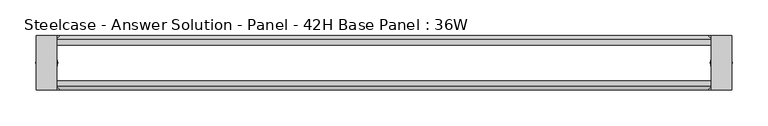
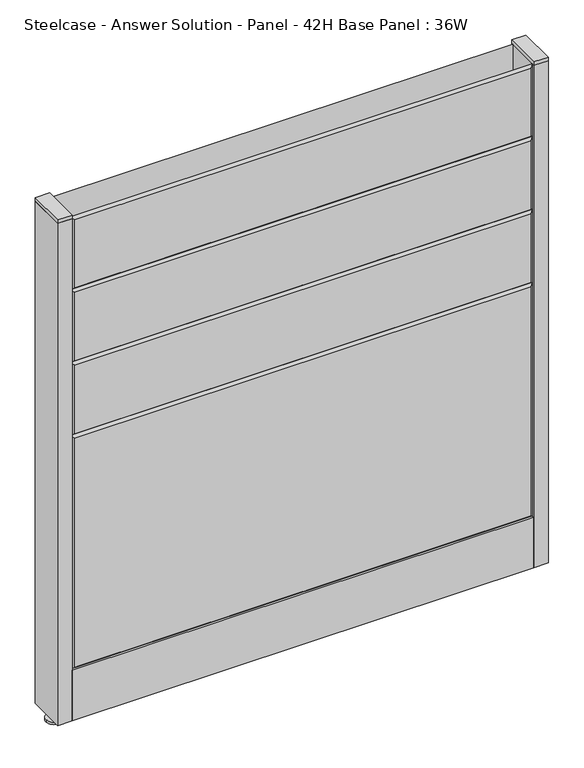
"""IFC4 building model written with IfcOpenShell, lengths in millimetres: furniture geometry, Steelcase - Answer Solution - Panel - 42H Base Panel : 36W."""

from ifc_helpers import new_model, si_unit, point, frame, frame_2d, origin, place, context, project, spatial, polyline, circle_curve, trimmed, segment, composite_curve, outline, extrude, faceted_brep, source, transform, mapped, element, save


def steelcase_answer_solution_panel_42h_base_panel_36w_b08f08ec(model_context):
    return source(origin(), model_context, "Body", "SolidModel", [
        extrude(outline(composite_curve([segment(trimmed(circle_curve(frame_2d((471.424, 0.0039657)), 5.08), [point((476.504, 0.0039657))], [point((466.344, 0.0039657))], False, "CARTESIAN"), True, "CONTINUOUS"), segment(trimmed(circle_curve(frame_2d((471.424, 0.0039657)), 5.08), [point((466.344, 0.0039657))], [point((476.504, 0.0039657))], False, "CARTESIAN"), True, "CONTINUOUS")], self_intersect=False)), frame((0.0, 0.0, 5.0799671), z_axis=(0.0, 0.0, 1.0), x_axis=(1.0, 0.0, 0.0)), (0.0, 0.0, 1.0), 10.414),
        extrude(outline(composite_curve([segment(trimmed(circle_curve(frame_2d((471.424, 0.0039657)), 15.24), [point((486.664, 0.0039657))], [point((456.184, 0.0039657))], False, "CARTESIAN"), True, "CONTINUOUS"), segment(trimmed(circle_curve(frame_2d((471.424, 0.0039657)), 15.24), [point((456.184, 0.0039657))], [point((486.664, 0.0039657))], False, "CARTESIAN"), True, "CONTINUOUS")], self_intersect=False)), frame((0.0, 0.0, -3.29e-05), z_axis=(0.0, 0.0, 1.0), x_axis=(1.0, 0.0, 0.0)), (0.0, 0.0, 1.0), 5.08),
        extrude(outline(polyline([(485.775, 38.1039851), (485.775, -38.0960149), (457.2, -38.0960149), (457.2, 38.1039851), (485.775, 38.1039851)])), frame((0.0, 0.0, 1065.8348), z_axis=(0.0, 0.0, 1.0), x_axis=(1.0, 0.0, 0.0)), (0.0, 0.0, 1.0), 7.3151671),
        extrude(outline(polyline([(485.775, 38.1039851), (485.775, -38.0960149), (457.2, -38.0960149), (457.2, 38.1039851), (485.775, 38.1039851)])), frame((0.0, 0.0, 15.4939671), z_axis=(0.0, 0.0, 1.0), x_axis=(1.0, 0.0, 0.0)), (0.0, 0.0, 1.0), 1050.3408329),
        extrude(outline(composite_curve([segment(trimmed(circle_curve(frame_2d((-471.424, 0.0039657)), 5.08), [point((-476.504, 0.0039657))], [point((-466.344, 0.0039657))], False, "CARTESIAN"), True, "CONTINUOUS"), segment(trimmed(circle_curve(frame_2d((-471.424, 0.0039657)), 5.08), [point((-466.344, 0.0039657))], [point((-476.504, 0.0039657))], False, "CARTESIAN"), True, "CONTINUOUS")], self_intersect=False)), frame((0.0, 0.0, 5.0799671), z_axis=(0.0, 0.0, 1.0), x_axis=(1.0, 0.0, 0.0)), (0.0, 0.0, 1.0), 10.414),
        extrude(outline(composite_curve([segment(trimmed(circle_curve(frame_2d((-471.424, 0.0039657)), 15.24), [point((-486.664, 0.0039657))], [point((-456.184, 0.0039657))], False, "CARTESIAN"), True, "CONTINUOUS"), segment(trimmed(circle_curve(frame_2d((-471.424, 0.0039657)), 15.24), [point((-456.184, 0.0039657))], [point((-486.664, 0.0039657))], False, "CARTESIAN"), True, "CONTINUOUS")], self_intersect=False)), frame((0.0, 0.0, -3.29e-05), z_axis=(0.0, 0.0, 1.0), x_axis=(1.0, 0.0, 0.0)), (0.0, 0.0, 1.0), 5.08),
        extrude(outline(polyline([(-485.775, 38.1039851), (-457.2, 38.1039851), (-457.2, -38.0960149), (-485.775, -38.0960149), (-485.775, 38.1039851)])), frame((0.0, 0.0, 1065.8348), z_axis=(0.0, 0.0, 1.0), x_axis=(1.0, 0.0, 0.0)), (0.0, 0.0, 1.0), 7.3151671),
        extrude(outline(polyline([(-485.775, 38.1039851), (-457.2, 38.1039851), (-457.2, -38.0960149), (-485.775, -38.0960149), (-485.775, 38.1039851)])), frame((0.0, 0.0, 15.4939671), z_axis=(0.0, 0.0, 1.0), x_axis=(1.0, 0.0, 0.0)), (0.0, 0.0, 1.0), 1050.3408329),
        faceted_brep([(-452.374, 38.1635011, 1061.974), (452.374, 38.1635011, 1061.974), (452.374, 38.1635011, 919.226), (-452.374, 38.1635011, 919.226), (-457.2, 33.3375011, 1066.8), (-457.2, 33.3375011, 914.4), (457.2, 33.3375011, 914.4), (457.2, 33.3375011, 1066.8)], [[[0, 1, 2, 3]], [[4, 5, 6, 7]], [[4, 7, 1, 0]], [[7, 6, 2, 1]], [[6, 5, 3, 2]], [[5, 4, 0, 3]]]),
        faceted_brep([(-452.374, 38.1635011, 909.574), (452.374, 38.1635011, 909.574), (452.374, 38.1635011, 766.826), (-452.374, 38.1635011, 766.826), (-457.2, 33.3375011, 914.4), (-457.2, 33.3375011, 762.0), (457.2, 33.3375011, 762.0), (457.2, 33.3375011, 914.4)], [[[0, 1, 2, 3]], [[4, 5, 6, 7]], [[4, 7, 1, 0]], [[7, 6, 2, 1]], [[6, 5, 3, 2]], [[5, 4, 0, 3]]]),
        faceted_brep([(-452.374, 38.1635011, 757.174), (452.374, 38.1635011, 757.174), (452.374, 38.1635011, 614.426), (-452.374, 38.1635011, 614.426), (-457.2, 33.3375011, 762.0), (-457.2, 33.3375011, 609.6), (457.2, 33.3375011, 609.6), (457.2, 33.3375011, 762.0)], [[[0, 1, 2, 3]], [[4, 5, 6, 7]], [[4, 7, 1, 0]], [[7, 6, 2, 1]], [[6, 5, 3, 2]], [[5, 4, 0, 3]]]),
        faceted_brep([(-452.374, 38.1635011, 604.774), (452.374, 38.1635011, 604.774), (452.374, 38.1635011, 125.476), (-452.374, 38.1635011, 125.476), (-457.2, 33.3375011, 609.6), (-457.2, 33.3375011, 120.65), (457.2, 33.3375011, 120.65), (457.2, 33.3375011, 609.6)], [[[0, 1, 2, 3]], [[4, 5, 6, 7]], [[4, 7, 1, 0]], [[7, 6, 2, 1]], [[6, 5, 3, 2]], [[5, 4, 0, 3]]]),
        faceted_brep([(452.374, -38.1635011, 1061.974), (-452.374, -38.1635011, 1061.974), (-452.374, -38.1635011, 919.226), (452.374, -38.1635011, 919.226), (457.2, -33.3375011, 1066.8), (457.2, -33.3375011, 914.4), (-457.2, -33.3375011, 914.4), (-457.2, -33.3375011, 1066.8)], [[[0, 1, 2, 3]], [[4, 5, 6, 7]], [[4, 7, 1, 0]], [[7, 6, 2, 1]], [[6, 5, 3, 2]], [[5, 4, 0, 3]]]),
        faceted_brep([(452.374, -38.1635011, 909.574), (-452.374, -38.1635011, 909.574), (-452.374, -38.1635011, 766.826), (452.374, -38.1635011, 766.826), (457.2, -33.3375011, 914.4), (457.2, -33.3375011, 762.0), (-457.2, -33.3375011, 762.0), (-457.2, -33.3375011, 914.4)], [[[0, 1, 2, 3]], [[4, 5, 6, 7]], [[4, 7, 1, 0]], [[7, 6, 2, 1]], [[6, 5, 3, 2]], [[5, 4, 0, 3]]]),
        faceted_brep([(452.374, -38.1635011, 757.174), (-452.374, -38.1635011, 757.174), (-452.374, -38.1635011, 614.426), (452.374, -38.1635011, 614.426), (457.2, -33.3375011, 762.0), (457.2, -33.3375011, 609.6), (-457.2, -33.3375011, 609.6), (-457.2, -33.3375011, 762.0)], [[[0, 1, 2, 3]], [[4, 5, 6, 7]], [[4, 7, 1, 0]], [[7, 6, 2, 1]], [[6, 5, 3, 2]], [[5, 4, 0, 3]]]),
        faceted_brep([(452.374, -38.1635011, 604.774), (-452.374, -38.1635011, 604.774), (-452.374, -38.1635011, 125.476), (452.374, -38.1635011, 125.476), (457.2, -33.3375011, 609.6), (457.2, -33.3375011, 120.65), (-457.2, -33.3375011, 120.65), (-457.2, -33.3375011, 609.6)], [[[0, 1, 2, 3]], [[4, 5, 6, 7]], [[4, 7, 1, 0]], [[7, 6, 2, 1]], [[6, 5, 3, 2]], [[5, 4, 0, 3]]]),
        extrude(outline(polyline([(25.4000011, 119.8575157), (25.4000011, 120.65), (38.1000194, 120.65), (38.1000194, 15.494), (37.3075215, 15.494), (37.3075215, 119.8575157), (25.4000011, 119.8575157)])), frame((-457.2, 0.0, 0.0), z_axis=(1.0, 0.0, 0.0), x_axis=(0.0, 1.0, 0.0)), (0.0, 0.0, 1.0), 914.4),
        extrude(outline(polyline([(-25.4000011, 119.8575157), (-37.3075215, 119.8575157), (-37.3075215, 15.494), (-38.1000194, 15.494), (-38.1000194, 120.65), (-25.4000011, 120.65), (-25.4000011, 119.8575157)])), frame((-457.2, 0.0, 0.0), z_axis=(1.0, 0.0, 0.0), x_axis=(0.0, 1.0, 0.0)), (0.0, 0.0, 1.0), 914.4),
    ])


if __name__ == "__main__":
    model = new_model("IFC4")
    model_context = context("Model", 3, world=origin())
    ifc_project = project(units=[si_unit("LENGTHUNIT", "METRE", prefix="MILLI")], contexts=[model_context])
    site = spatial("IfcSite", under=ifc_project)
    building = spatial("IfcBuilding", under=site)
    placement = place(None, origin())
    steelcase_answer_solution_panel_42h_base_panel_36w_shape = steelcase_answer_solution_panel_42h_base_panel_36w_b08f08ec(model_context)
    element("IfcFurniture", 1, ObjectType="Steelcase - Answer Solution - Panel - 42H Base Panel : 36W", at=placement, inside=building, context=model_context, shape_type="MappedRepresentation", body=[
        mapped(steelcase_answer_solution_panel_42h_base_panel_36w_shape, transform((0.0, 0.0, 0.0), x_axis=(1.0, 0.0, 0.0), y_axis=(0.0, 1.0, 0.0), z_axis=(0.0, 0.0, 1.0))),
    ])
    save(model, "model.ifc")
